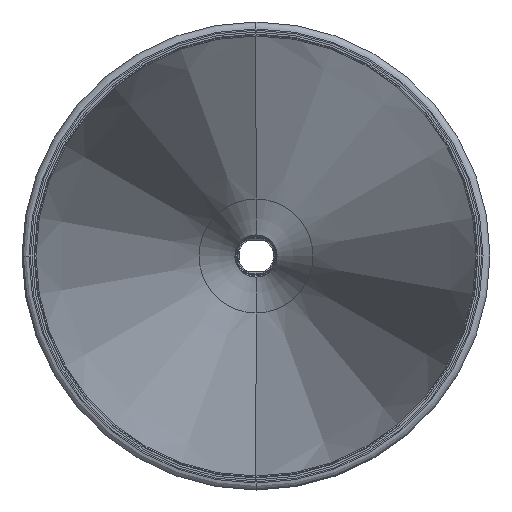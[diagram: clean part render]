
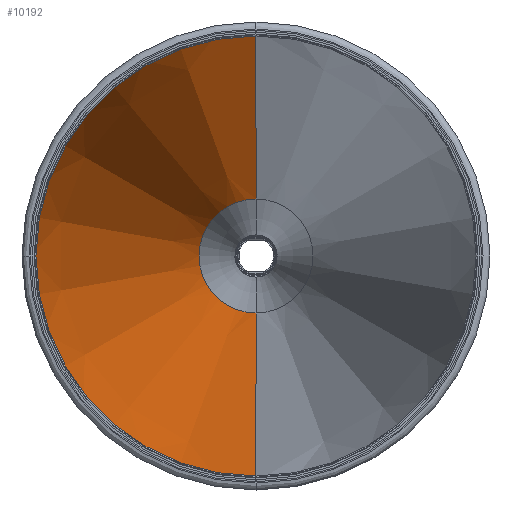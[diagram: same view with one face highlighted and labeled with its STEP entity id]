
A CAD part, front view. The second image highlights one B-rep face of the part: STEP entity #10192.
In plain terms, the highlighted conical face has half-angle 10.166 degrees and reference radius 97.876 mm.
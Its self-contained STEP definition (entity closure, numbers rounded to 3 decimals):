
#584 = VERTEX_POINT ( 'NONE', #1067 ) ;
#791 = EDGE_CURVE ( 'NONE', #584, #7964, #7720, .T. ) ;
#1067 = CARTESIAN_POINT ( 'NONE',  ( -122.154, 451.065, 58.098 ) ) ;
#1160 = CARTESIAN_POINT ( 'NONE',  ( -122.154, 41.035, 131.621 ) ) ;
#1467 = DIRECTION ( 'NONE',  ( 0., -1., 0. ) ) ;
#1544 = DIRECTION ( 'NONE',  ( 0., 0., -1. ) ) ;
#1899 = EDGE_LOOP ( 'NONE', ( #9931, #11146, #10395, #5266 ) ) ;
#1902 = CARTESIAN_POINT ( 'NONE',  ( -122.154, 41.035, -64.13 ) ) ;
#2382 = FACE_OUTER_BOUND ( 'NONE', #1899, .T. ) ;
#2541 = CIRCLE ( 'NONE', #3420, 96.434 ) ;
#2835 = DIRECTION ( 'NONE',  ( 0., -0.984, 0.176 ) ) ;
#2882 = AXIS2_PLACEMENT_3D ( 'NONE', #6605, #1467, #5745 ) ;
#3014 = DIRECTION ( 'NONE',  ( 0., -0.984, -0.176 ) ) ;
#3420 = AXIS2_PLACEMENT_3D ( 'NONE', #10339, #11088, #6767 ) ;
#3652 = VERTEX_POINT ( 'NONE', #7055 ) ;
#3739 = AXIS2_PLACEMENT_3D ( 'NONE', #7233, #8335, #1544 ) ;
#3918 = CONICAL_SURFACE ( 'NONE', #3739, 97.876, 0.177 ) ;
#5003 = VECTOR ( 'NONE', #2835, 1000. ) ;
#5266 = ORIENTED_EDGE ( 'NONE', *, *, #9019, .F. ) ;
#5745 = DIRECTION ( 'NONE',  ( 0., 0., -1. ) ) ;
#6191 = LINE ( 'NONE', #1902, #6240 ) ;
#6240 = VECTOR ( 'NONE', #3014, 1000. ) ;
#6605 = CARTESIAN_POINT ( 'NONE',  ( -122.154, 451.065, 33.746 ) ) ;
#6767 = DIRECTION ( 'NONE',  ( 0., 0., -1. ) ) ;
#6994 = CARTESIAN_POINT ( 'NONE',  ( -122.154, 49.075, 130.18 ) ) ;
#7055 = CARTESIAN_POINT ( 'NONE',  ( -122.154, 49.075, -62.689 ) ) ;
#7140 = VERTEX_POINT ( 'NONE', #6994 ) ;
#7233 = CARTESIAN_POINT ( 'NONE',  ( -122.154, 41.035, 33.746 ) ) ;
#7720 = CIRCLE ( 'NONE', #2882, 24.352 ) ;
#7964 = VERTEX_POINT ( 'NONE', #9110 ) ;
#8335 = DIRECTION ( 'NONE',  ( 0., -1., 0. ) ) ;
#9019 = EDGE_CURVE ( 'NONE', #7964, #3652, #6191, .T. ) ;
#9110 = CARTESIAN_POINT ( 'NONE',  ( -122.154, 451.065, 9.393 ) ) ;
#9763 = EDGE_CURVE ( 'NONE', #7140, #3652, #2541, .T. ) ;
#9811 = EDGE_CURVE ( 'NONE', #584, #7140, #10675, .T. ) ;
#9931 = ORIENTED_EDGE ( 'NONE', *, *, #791, .F. ) ;
#10192 = ADVANCED_FACE ( 'NONE', ( #2382 ), #3918, .F. ) ;
#10339 = CARTESIAN_POINT ( 'NONE',  ( -122.154, 49.075, 33.746 ) ) ;
#10395 = ORIENTED_EDGE ( 'NONE', *, *, #9763, .T. ) ;
#10675 = LINE ( 'NONE', #1160, #5003 ) ;
#11088 = DIRECTION ( 'NONE',  ( 0., -1., 0. ) ) ;
#11146 = ORIENTED_EDGE ( 'NONE', *, *, #9811, .T. ) ;
